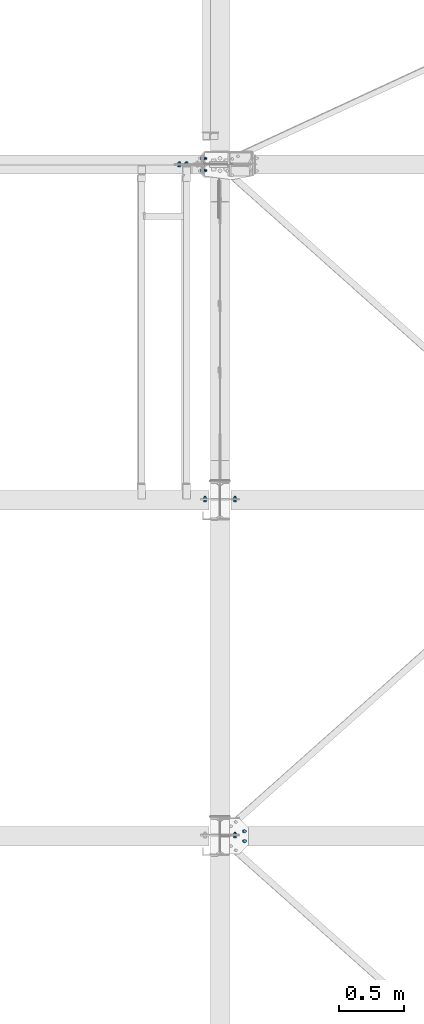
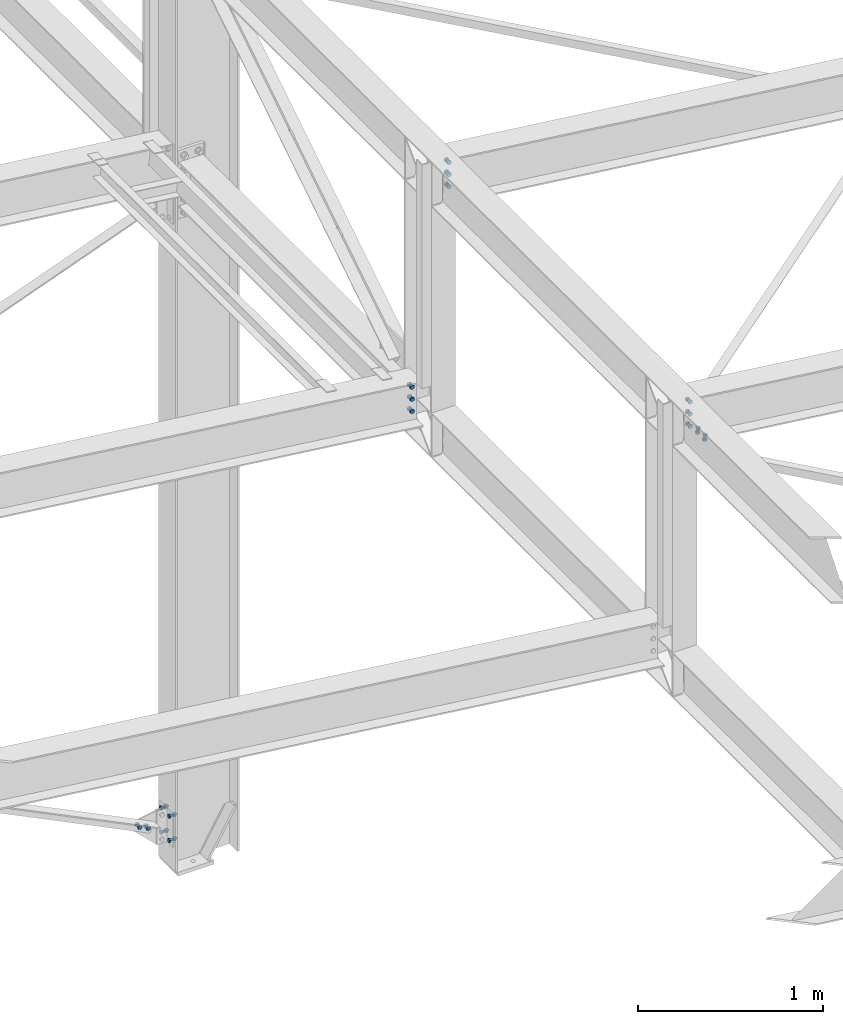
# One storey, part 293 of 3134: 7 mechanical fasteners, 6 elements without a shape of their own.
"""IFC2X3 building model written with IfcOpenShell, lengths in millimetres."""

from ifc_helpers import new_model, si_unit, frame, origin_with_axes, place, context, subcontext, project, spatial, faceted_brep, source, transform, mapped, material, type_object, element, aggregate, save


model = new_model("IFC2X3")

# Units and contexts
model_context = context("Model", 3, precision=1e-05, world=origin_with_axes())
body_context = subcontext(model_context, "Body", "Model", "MODEL_VIEW")
ifc_project = project(units=[si_unit("LENGTHUNIT", "METRE", prefix="MILLI"), si_unit("AREAUNIT", "SQUARE_METRE"), si_unit("VOLUMEUNIT", "CUBIC_METRE"), si_unit("MASSUNIT", "GRAM", prefix="KILO"), si_unit("TIMEUNIT", "SECOND"), si_unit("PLANEANGLEUNIT", "RADIAN"), si_unit("SOLIDANGLEUNIT", "STERADIAN"), si_unit("THERMODYNAMICTEMPERATUREUNIT", "DEGREE_CELSIUS"), si_unit("LUMINOUSINTENSITYUNIT", "LUMEN")], contexts=[model_context])

# Site, building, storey
site_placement = place(None, origin_with_axes())
site = spatial("IfcSite", under=ifc_project, at=site_placement, CompositionType="ELEMENT")
building_placement = place(site_placement, origin_with_axes())
building = spatial("IfcBuilding", under=site, at=building_placement, Name="Undefined", CompositionType="ELEMENT")
storey_placement = place(building_placement, origin_with_axes())
storey = spatial("IfcBuildingStorey", under=building, at=storey_placement, Name="Undefined", CompositionType="ELEMENT", Elevation=0.0)

# Assembly, mechanical fastener
assembly_1_placement = place(storey_placement, origin_with_axes())
assembly_1 = element("IfcElementAssembly", 1, at=assembly_1_placement, inside=storey, Name="300", AssemblyPlace="NOTDEFINED", PredefinedType="RIGID_FRAME")
ifc_material = material(Name="8.8")
mechanical_fastener_type = type_object("IfcMechanicalFastenerType", Name="Bolt assembly")
shared_shape_1 = source(origin_with_axes(), body_context, "Body", "Brep", [
    faceted_brep([(13.856406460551, -19.199990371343, 0.0), (6.92820323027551, -19.199990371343, 12.0), (-6.92820323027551, -19.199990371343, 12.0), (-13.856406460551, -19.199990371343, 1.69692038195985e-15), (-6.92820323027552, -19.199990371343, -12.0), (6.9282032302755, -19.199990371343, -12.0), (6.9282032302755, -9.19999037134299, -12.0), (-6.92820323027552, -9.19999037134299, -12.0), (-13.856406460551, -9.19999037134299, 1.69692038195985e-15), (-6.92820323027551, -9.19999037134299, 12.0), (6.92820323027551, -9.19999037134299, 12.0), (13.856406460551, -9.19999037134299, 0.0), (8.0, -9.19999037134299, 0.0), (6.92820323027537, -9.19999037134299, 4.00000000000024), (3.99999999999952, -9.19999037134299, 6.92820323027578), (-8.29068785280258e-13, -9.19999037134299, 8.0), (-4.00000000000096, -9.19999037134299, 6.92820323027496), (-6.9282032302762, -9.19999037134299, 3.99999999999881), (-8.0, -9.19999037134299, -1.65813757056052e-12), (-6.92820323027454, -9.19999037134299, -4.00000000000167), (-3.99999999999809, -9.19999037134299, -6.92820323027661), (2.47832457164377e-12, -9.19999037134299, -8.0), (4.00000000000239, -9.19999037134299, -6.92820323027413), (6.92820323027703, -9.19999037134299, -3.99999999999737), (6.92820323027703, 25.800009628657, -3.99999999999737), (4.00000000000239, 25.800009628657, -6.92820323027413), (2.47832457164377e-12, 25.800009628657, -8.0), (-3.99999999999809, 25.800009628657, -6.92820323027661), (-6.92820323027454, 25.800009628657, -4.00000000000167), (-8.0, 25.800009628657, -1.65813757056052e-12), (-6.9282032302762, 25.800009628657, 3.99999999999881), (-4.00000000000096, 25.800009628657, 6.92820323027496), (-8.29068785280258e-13, 25.800009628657, 8.0), (3.99999999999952, 25.800009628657, 6.92820323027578), (6.92820323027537, 25.800009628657, 4.00000000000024), (8.0, 25.800009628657, 0.0), (13.856406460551, 8.00000637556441, 0.0), (6.92820323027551, 8.00000637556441, 12.0), (-6.92820323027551, 8.00000637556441, 12.0), (-13.856406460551, 8.00000637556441, 1.69692038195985e-15), (-6.92820323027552, 8.00000637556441, -12.0), (6.9282032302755, 8.00000637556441, -12.0), (6.9282032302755, 21.0000063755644, -12.0), (-6.92820323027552, 21.0000063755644, -12.0), (-13.856406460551, 21.0000063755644, 1.69692038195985e-15), (-6.92820323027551, 21.0000063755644, 12.0), (6.92820323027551, 21.0000063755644, 12.0), (13.856406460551, 21.0000063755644, 0.0)], [[[0, 1, 2, 3, 4, 5]], [[6, 7, 8, 9, 10, 11]], [[0, 11, 10, 1]], [[1, 10, 9, 2]], [[2, 9, 8, 3]], [[3, 8, 7, 4]], [[4, 7, 6, 5]], [[5, 6, 11, 0]], [[12, 13, 14, 15, 16, 17, 18, 19, 20, 21, 22, 23]], [[24, 25, 26, 27, 28, 29, 30, 31, 32, 33, 34, 35]], [[12, 35, 34, 13]], [[13, 34, 33, 14]], [[14, 33, 32, 15]], [[15, 32, 31, 16]], [[16, 31, 30, 17]], [[17, 30, 29, 18]], [[18, 29, 28, 19]], [[19, 28, 27, 20]], [[20, 27, 26, 21]], [[21, 26, 25, 22]], [[22, 25, 24, 23]], [[23, 24, 35, 12]], [[36, 37, 38, 39, 40, 41]], [[42, 43, 44, 45, 46, 47]], [[36, 47, 46, 37]], [[37, 46, 45, 38]], [[38, 45, 44, 39]], [[39, 44, 43, 40]], [[40, 43, 42, 41]], [[41, 42, 47, 36]]]),
    faceted_brep([(9.0, -0.1, 0.0), (7.79422863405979, -0.1, 4.50000000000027), (4.49999999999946, -0.1, 7.79422863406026), (-9.3270238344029e-13, -0.1, 9.0), (-4.50000000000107, -0.1, 7.79422863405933), (-7.79422863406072, -0.1, 4.49999999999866), (-9.0, -0.1, -1.86540476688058e-12), (-7.79422863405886, -0.1, -4.50000000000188), (-4.49999999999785, -0.1, -7.79422863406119), (2.78811514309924e-12, -0.1, -9.0), (4.50000000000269, -0.1, -7.7942286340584), (7.79422863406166, -0.1, -4.49999999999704), (7.79422863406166, 8.00000000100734, -4.49999999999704), (4.50000000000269, 8.00000000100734, -7.7942286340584), (2.78811514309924e-12, 8.00000000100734, -9.0), (-4.49999999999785, 8.00000000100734, -7.79422863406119), (-7.79422863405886, 8.00000000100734, -4.50000000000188), (-9.0, 8.00000000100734, -1.86540476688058e-12), (-7.79422863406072, 8.00000000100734, 4.49999999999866), (-4.50000000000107, 8.00000000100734, 7.79422863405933), (-9.3270238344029e-13, 8.00000000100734, 9.0), (4.49999999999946, 8.00000000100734, 7.79422863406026), (7.79422863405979, 8.00000000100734, 4.50000000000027), (9.0, 8.00000000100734, 0.0), (9.0, -9.09999037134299, 0.0), (7.79422863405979, -9.09999037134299, 4.50000000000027), (4.49999999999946, -9.09999037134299, 7.79422863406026), (-9.3270238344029e-13, -9.09999037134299, 9.0), (-4.50000000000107, -9.09999037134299, 7.79422863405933), (-7.79422863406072, -9.09999037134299, 4.49999999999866), (-9.0, -9.09999037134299, -1.86540476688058e-12), (-7.79422863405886, -9.09999037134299, -4.50000000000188), (-4.49999999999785, -9.09999037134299, -7.79422863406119), (2.78811514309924e-12, -9.09999037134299, -9.0), (4.50000000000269, -9.09999037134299, -7.7942286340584), (7.79422863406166, -9.09999037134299, -4.49999999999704), (7.79422863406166, 0.100000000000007, -4.49999999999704), (4.50000000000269, 0.100000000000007, -7.7942286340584), (2.78811514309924e-12, 0.100000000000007, -9.0), (-4.49999999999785, 0.100000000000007, -7.79422863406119), (-7.79422863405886, 0.100000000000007, -4.50000000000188), (-9.0, 0.100000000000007, -1.86540476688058e-12), (-7.79422863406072, 0.100000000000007, 4.49999999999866), (-4.50000000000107, 0.100000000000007, 7.79422863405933), (-9.3270238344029e-13, 0.100000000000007, 9.0), (4.49999999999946, 0.100000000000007, 7.79422863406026), (7.79422863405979, 0.100000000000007, 4.50000000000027), (9.0, 0.100000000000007, 0.0)], [[[0, 1, 2, 3, 4, 5, 6, 7, 8, 9, 10, 11]], [[12, 13, 14, 15, 16, 17, 18, 19, 20, 21, 22, 23]], [[0, 23, 22, 1]], [[1, 22, 21, 2]], [[2, 21, 20, 3]], [[3, 20, 19, 4]], [[4, 19, 18, 5]], [[5, 18, 17, 6]], [[6, 17, 16, 7]], [[7, 16, 15, 8]], [[8, 15, 14, 9]], [[9, 14, 13, 10]], [[10, 13, 12, 11]], [[11, 12, 23, 0]], [[24, 25, 26, 27, 28, 29, 30, 31, 32, 33, 34, 35]], [[36, 37, 38, 39, 40, 41, 42, 43, 44, 45, 46, 47]], [[24, 47, 46, 25]], [[25, 46, 45, 26]], [[26, 45, 44, 27]], [[27, 44, 43, 28]], [[28, 43, 42, 29]], [[29, 42, 41, 30]], [[30, 41, 40, 31]], [[31, 40, 39, 32]], [[32, 39, 38, 33]], [[33, 38, 37, 34]], [[34, 37, 36, 35]], [[35, 36, 47, 24]]]),
])
mechanical_fastener_1_placement = place(assembly_1_placement, frame((56064.2248161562, 55887.9995130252, 5496.68063428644), z_axis=(0.992623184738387, 1.63108538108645e-05, -0.12124031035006), x_axis=(1.62000016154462e-05, -0.999999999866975, -1.90000018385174e-06)))
mechanical_fastener_1 = element("IfcMechanicalFastener", 2, at=mechanical_fastener_1_placement, type_object=mechanical_fastener_type, material=ifc_material, Name="Bolt assembly", NominalDiameter=16.0, NominalLength=35.0, context=body_context, shape_type="MappedRepresentation", body=[
    mapped(shared_shape_1, transform((0.0, 0.0, 0.0))),
    mapped(shared_shape_1, transform((76.0, 0.0, 0.0))),
])

assembly_2_placement = place(storey_placement, origin_with_axes())
assembly_2 = element("IfcElementAssembly", 3, at=assembly_2_placement, inside=storey, Name="300", AssemblyPlace="NOTDEFINED", PredefinedType="RIGID_FRAME")
shared_shape_2 = source(origin_with_axes(), body_context, "Body", "Brep", [
    faceted_brep([(13.856406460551, -13.0499999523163, 0.0), (6.92820323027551, -13.0499999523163, 12.0), (-6.92820323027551, -13.0499999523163, 12.0), (-13.856406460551, -13.0499999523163, 1.69692038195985e-15), (-6.92820323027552, -13.0499999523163, -12.0), (6.9282032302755, -13.0499999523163, -12.0), (6.9282032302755, -3.04999995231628, -12.0), (-6.92820323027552, -3.04999995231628, -12.0), (-13.856406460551, -3.04999995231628, 1.69692038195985e-15), (-6.92820323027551, -3.04999995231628, 12.0), (6.92820323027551, -3.04999995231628, 12.0), (13.856406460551, -3.04999995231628, 0.0), (8.0, -3.04999995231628, 0.0), (6.92820323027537, -3.04999995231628, 4.00000000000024), (3.99999999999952, -3.04999995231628, 6.92820323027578), (-8.29068785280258e-13, -3.04999995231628, 8.0), (-4.00000000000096, -3.04999995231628, 6.92820323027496), (-6.9282032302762, -3.04999995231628, 3.99999999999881), (-8.0, -3.04999995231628, -1.65813757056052e-12), (-6.92820323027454, -3.04999995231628, -4.00000000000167), (-3.99999999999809, -3.04999995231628, -6.92820323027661), (2.47832457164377e-12, -3.04999995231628, -8.0), (4.00000000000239, -3.04999995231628, -6.92820323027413), (6.92820323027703, -3.04999995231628, -3.99999999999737), (6.92820323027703, 31.9500000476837, -3.99999999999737), (4.00000000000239, 31.9500000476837, -6.92820323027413), (2.47832457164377e-12, 31.9500000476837, -8.0), (-3.99999999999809, 31.9500000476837, -6.92820323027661), (-6.92820323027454, 31.9500000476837, -4.00000000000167), (-8.0, 31.9500000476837, -1.65813757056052e-12), (-6.9282032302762, 31.9500000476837, 3.99999999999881), (-4.00000000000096, 31.9500000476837, 6.92820323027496), (-8.29068785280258e-13, 31.9500000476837, 8.0), (3.99999999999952, 31.9500000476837, 6.92820323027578), (6.92820323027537, 31.9500000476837, 4.00000000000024), (8.0, 31.9500000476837, 0.0), (13.856406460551, 13.0500000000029, 0.0), (6.92820323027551, 13.0500000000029, 12.0), (-6.92820323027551, 13.0500000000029, 12.0), (-13.856406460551, 13.0500000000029, 1.69692038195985e-15), (-6.92820323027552, 13.0500000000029, -12.0), (6.9282032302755, 13.0500000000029, -12.0), (6.9282032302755, 26.0500000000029, -12.0), (-6.92820323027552, 26.0500000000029, -12.0), (-13.856406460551, 26.0500000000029, 1.69692038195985e-15), (-6.92820323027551, 26.0500000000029, 12.0), (6.92820323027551, 26.0500000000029, 12.0), (13.856406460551, 26.0500000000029, 0.0)], [[[0, 1, 2, 3, 4, 5]], [[6, 7, 8, 9, 10, 11]], [[0, 11, 10, 1]], [[1, 10, 9, 2]], [[2, 9, 8, 3]], [[3, 8, 7, 4]], [[4, 7, 6, 5]], [[5, 6, 11, 0]], [[12, 13, 14, 15, 16, 17, 18, 19, 20, 21, 22, 23]], [[24, 25, 26, 27, 28, 29, 30, 31, 32, 33, 34, 35]], [[12, 35, 34, 13]], [[13, 34, 33, 14]], [[14, 33, 32, 15]], [[15, 32, 31, 16]], [[16, 31, 30, 17]], [[17, 30, 29, 18]], [[18, 29, 28, 19]], [[19, 28, 27, 20]], [[20, 27, 26, 21]], [[21, 26, 25, 22]], [[22, 25, 24, 23]], [[23, 24, 35, 12]], [[36, 37, 38, 39, 40, 41]], [[42, 43, 44, 45, 46, 47]], [[36, 47, 46, 37]], [[37, 46, 45, 38]], [[38, 45, 44, 39]], [[39, 44, 43, 40]], [[40, 43, 42, 41]], [[41, 42, 47, 36]]]),
    faceted_brep([(9.0, 2.95000000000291, 0.0), (7.79422863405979, 2.95000000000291, 4.50000000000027), (4.49999999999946, 2.95000000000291, 7.79422863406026), (-9.3270238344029e-13, 2.95000000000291, 9.0), (-4.50000000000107, 2.95000000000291, 7.79422863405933), (-7.79422863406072, 2.95000000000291, 4.49999999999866), (-9.0, 2.95000000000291, -1.86540476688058e-12), (-7.79422863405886, 2.95000000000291, -4.50000000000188), (-4.49999999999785, 2.95000000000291, -7.79422863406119), (2.78811514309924e-12, 2.95000000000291, -9.0), (4.50000000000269, 2.95000000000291, -7.7942286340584), (7.79422863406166, 2.95000000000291, -4.49999999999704), (7.79422863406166, 13.0500000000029, -4.49999999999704), (4.50000000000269, 13.0500000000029, -7.7942286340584), (2.78811514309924e-12, 13.0500000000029, -9.0), (-4.49999999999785, 13.0500000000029, -7.79422863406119), (-7.79422863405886, 13.0500000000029, -4.50000000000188), (-9.0, 13.0500000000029, -1.86540476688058e-12), (-7.79422863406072, 13.0500000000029, 4.49999999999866), (-4.50000000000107, 13.0500000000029, 7.79422863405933), (-9.3270238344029e-13, 13.0500000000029, 9.0), (4.49999999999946, 13.0500000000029, 7.79422863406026), (7.79422863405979, 13.0500000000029, 4.50000000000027), (9.0, 13.0500000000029, 0.0), (9.0, -2.94999995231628, 0.0), (7.79422863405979, -2.94999995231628, 4.50000000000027), (4.49999999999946, -2.94999995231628, 7.79422863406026), (-9.3270238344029e-13, -2.94999995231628, 9.0), (-4.50000000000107, -2.94999995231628, 7.79422863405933), (-7.79422863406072, -2.94999995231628, 4.49999999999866), (-9.0, -2.94999995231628, -1.86540476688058e-12), (-7.79422863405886, -2.94999995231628, -4.50000000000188), (-4.49999999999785, -2.94999995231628, -7.79422863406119), (2.78811514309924e-12, -2.94999995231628, -9.0), (4.50000000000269, -2.94999995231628, -7.7942286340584), (7.79422863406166, -2.94999995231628, -4.49999999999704), (7.79422863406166, 3.14999995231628, -4.49999999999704), (4.50000000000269, 3.14999995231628, -7.7942286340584), (2.78811514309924e-12, 3.14999995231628, -9.0), (-4.49999999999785, 3.14999995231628, -7.79422863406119), (-7.79422863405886, 3.14999995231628, -4.50000000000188), (-9.0, 3.14999995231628, -1.86540476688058e-12), (-7.79422863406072, 3.14999995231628, 4.49999999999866), (-4.50000000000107, 3.14999995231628, 7.79422863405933), (-9.3270238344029e-13, 3.14999995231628, 9.0), (4.49999999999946, 3.14999995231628, 7.79422863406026), (7.79422863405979, 3.14999995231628, 4.50000000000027), (9.0, 3.14999995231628, 0.0)], [[[0, 1, 2, 3, 4, 5, 6, 7, 8, 9, 10, 11]], [[12, 13, 14, 15, 16, 17, 18, 19, 20, 21, 22, 23]], [[0, 23, 22, 1]], [[1, 22, 21, 2]], [[2, 21, 20, 3]], [[3, 20, 19, 4]], [[4, 19, 18, 5]], [[5, 18, 17, 6]], [[6, 17, 16, 7]], [[7, 16, 15, 8]], [[8, 15, 14, 9]], [[9, 14, 13, 10]], [[10, 13, 12, 11]], [[11, 12, 23, 0]], [[24, 25, 26, 27, 28, 29, 30, 31, 32, 33, 34, 35]], [[36, 37, 38, 39, 40, 41, 42, 43, 44, 45, 46, 47]], [[24, 47, 46, 25]], [[25, 46, 45, 26]], [[26, 45, 44, 27]], [[27, 44, 43, 28]], [[28, 43, 42, 29]], [[29, 42, 41, 30]], [[30, 41, 40, 31]], [[31, 40, 39, 32]], [[32, 39, 38, 33]], [[33, 38, 37, 34]], [[34, 37, 36, 35]], [[35, 36, 47, 24]]]),
])
mechanical_fastener_2_placement = place(assembly_2_placement, frame((55760.0, 58450.0, 4337.44269270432), z_axis=(1.0, 0.0, 0.0), x_axis=(0.0, 0.0, -1.0)))
mechanical_fastener_2 = element("IfcMechanicalFastener", 4, at=mechanical_fastener_2_placement, type_object=mechanical_fastener_type, material=ifc_material, Name="Bolt assembly", NominalDiameter=16.0, NominalLength=35.0, context=body_context, shape_type="MappedRepresentation", body=[
    mapped(shared_shape_2, transform((0.0, 0.0, 0.0))),
    mapped(shared_shape_2, transform((80.0, 0.0, 0.0))),
    mapped(shared_shape_2, transform((160.0, 0.0, 0.0))),
])
aggregate(assembly_2, [mechanical_fastener_2])

# Mechanical fastener
mechanical_fastener_3_placement = place(assembly_1_placement, frame((55990.0, 55850.0, 5735.35014950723), z_axis=(1.0, 0.0, 0.0), x_axis=(0.0, 0.0, -1.0)))
mechanical_fastener_3 = element("IfcMechanicalFastener", 5, at=mechanical_fastener_3_placement, type_object=mechanical_fastener_type, material=ifc_material, Name="Bolt assembly", NominalDiameter=16.0, NominalLength=35.0, context=body_context, shape_type="MappedRepresentation", body=[
    mapped(shared_shape_2, transform((0.0, 0.0, 0.0))),
    mapped(shared_shape_2, transform((80.0, 0.0, 0.0))),
    mapped(shared_shape_2, transform((160.0, 0.0, 0.0))),
])

aggregate(assembly_1, [mechanical_fastener_1, mechanical_fastener_3])

# Assembly, mechanical fastener
assembly_3_placement = place(storey_placement, origin_with_axes())
assembly_3 = element("IfcElementAssembly", 6, at=assembly_3_placement, inside=storey, Name="300", AssemblyPlace="NOTDEFINED", PredefinedType="RIGID_FRAME")
mechanical_fastener_4_placement = place(assembly_3_placement, frame((55990.0, 58450.0, 5735.35014950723), z_axis=(1.0, 0.0, 0.0), x_axis=(0.0, 0.0, -1.0)))
mechanical_fastener_4 = element("IfcMechanicalFastener", 7, at=mechanical_fastener_4_placement, type_object=mechanical_fastener_type, material=ifc_material, Name="Bolt assembly", NominalDiameter=16.0, NominalLength=35.0, context=body_context, shape_type="MappedRepresentation", body=[
    mapped(shared_shape_2, transform((0.0, 0.0, 0.0))),
    mapped(shared_shape_2, transform((80.0, 0.0, 0.0))),
    mapped(shared_shape_2, transform((160.0, 0.0, 0.0))),
])
aggregate(assembly_3, [mechanical_fastener_4])

assembly_4_placement = place(storey_placement, origin_with_axes())
assembly_4 = element("IfcElementAssembly", 8, at=assembly_4_placement, inside=storey, AssemblyPlace="NOTDEFINED", PredefinedType="RIGID_FRAME")
shared_shape_3 = source(origin_with_axes(), body_context, "Body", "Brep", [
    faceted_brep([(13.856406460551, -21.0000017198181, 0.0), (6.92820323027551, -21.0000017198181, 12.0), (-6.92820323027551, -21.0000017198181, 12.0), (-13.856406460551, -21.0000017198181, 1.69692038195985e-15), (-6.92820323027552, -21.0000017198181, -12.0), (6.9282032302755, -21.0000017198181, -12.0), (6.9282032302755, -11.0000017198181, -12.0), (-6.92820323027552, -11.0000017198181, -12.0), (-13.856406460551, -11.0000017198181, 1.69692038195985e-15), (-6.92820323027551, -11.0000017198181, 12.0), (6.92820323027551, -11.0000017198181, 12.0), (13.856406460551, -11.0000017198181, 0.0), (8.0, -11.0000017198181, 0.0), (6.92820323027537, -11.0000017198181, 4.00000000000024), (3.99999999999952, -11.0000017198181, 6.92820323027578), (-8.29068785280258e-13, -11.0000017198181, 8.0), (-4.00000000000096, -11.0000017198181, 6.92820323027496), (-6.9282032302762, -11.0000017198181, 3.99999999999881), (-8.0, -11.0000017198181, -1.65813757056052e-12), (-6.92820323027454, -11.0000017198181, -4.00000000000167), (-3.99999999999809, -11.0000017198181, -6.92820323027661), (2.47832457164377e-12, -11.0000017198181, -8.0), (4.00000000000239, -11.0000017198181, -6.92820323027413), (6.92820323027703, -11.0000017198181, -3.99999999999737), (6.92820323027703, 23.9999999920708, -3.99999999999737), (4.00000000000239, 23.9999999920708, -6.92820323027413), (2.47832457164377e-12, 23.9999999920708, -8.0), (-3.99999999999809, 23.9999999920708, -6.92820323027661), (-6.92820323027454, 23.9999999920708, -4.00000000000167), (-8.0, 23.9999999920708, -1.65813757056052e-12), (-6.9282032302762, 23.9999999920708, 3.99999999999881), (-4.00000000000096, 23.9999999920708, 6.92820323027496), (-8.29068785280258e-13, 23.9999999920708, 8.0), (3.99999999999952, 23.9999999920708, 6.92820323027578), (6.92820323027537, 23.9999999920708, 4.00000000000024), (8.0, 23.9999999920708, 0.0), (13.856406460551, 3.99999999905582, 0.0), (6.92820323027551, 3.99999999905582, 12.0), (-6.92820323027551, 3.99999999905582, 12.0), (-13.856406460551, 3.99999999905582, 1.69692038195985e-15), (-6.92820323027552, 3.99999999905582, -12.0), (6.9282032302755, 3.99999999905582, -12.0), (6.9282032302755, 16.9999999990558, -12.0), (-6.92820323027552, 16.9999999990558, -12.0), (-13.856406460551, 16.9999999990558, 1.69692038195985e-15), (-6.92820323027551, 16.9999999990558, 12.0), (6.92820323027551, 16.9999999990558, 12.0), (13.856406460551, 16.9999999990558, 0.0)], [[[0, 1, 2, 3, 4, 5]], [[6, 7, 8, 9, 10, 11]], [[0, 11, 10, 1]], [[1, 10, 9, 2]], [[2, 9, 8, 3]], [[3, 8, 7, 4]], [[4, 7, 6, 5]], [[5, 6, 11, 0]], [[12, 13, 14, 15, 16, 17, 18, 19, 20, 21, 22, 23]], [[24, 25, 26, 27, 28, 29, 30, 31, 32, 33, 34, 35]], [[12, 35, 34, 13]], [[13, 34, 33, 14]], [[14, 33, 32, 15]], [[15, 32, 31, 16]], [[16, 31, 30, 17]], [[17, 30, 29, 18]], [[18, 29, 28, 19]], [[19, 28, 27, 20]], [[20, 27, 26, 21]], [[21, 26, 25, 22]], [[22, 25, 24, 23]], [[23, 24, 35, 12]], [[36, 37, 38, 39, 40, 41]], [[42, 43, 44, 45, 46, 47]], [[36, 47, 46, 37]], [[37, 46, 45, 38]], [[38, 45, 44, 39]], [[39, 44, 43, 40]], [[40, 43, 42, 41]], [[41, 42, 47, 36]]]),
    faceted_brep([(9.0, -4.10000000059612, 0.0), (7.79422863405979, -4.10000000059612, 4.50000000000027), (4.49999999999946, -4.10000000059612, 7.79422863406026), (-9.3270238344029e-13, -4.10000000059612, 9.0), (-4.50000000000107, -4.10000000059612, 7.79422863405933), (-7.79422863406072, -4.10000000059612, 4.49999999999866), (-9.0, -4.10000000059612, -1.86540476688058e-12), (-7.79422863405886, -4.10000000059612, -4.50000000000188), (-4.49999999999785, -4.10000000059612, -7.79422863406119), (2.78811514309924e-12, -4.10000000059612, -9.0), (4.50000000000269, -4.10000000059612, -7.7942286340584), (7.79422863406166, -4.10000000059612, -4.49999999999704), (7.79422863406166, 4.00000375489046, -4.49999999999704), (4.50000000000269, 4.00000375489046, -7.7942286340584), (2.78811514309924e-12, 4.00000375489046, -9.0), (-4.49999999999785, 4.00000375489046, -7.79422863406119), (-7.79422863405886, 4.00000375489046, -4.50000000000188), (-9.0, 4.00000375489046, -1.86540476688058e-12), (-7.79422863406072, 4.00000375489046, 4.49999999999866), (-4.50000000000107, 4.00000375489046, 7.79422863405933), (-9.3270238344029e-13, 4.00000375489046, 9.0), (4.49999999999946, 4.00000375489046, 7.79422863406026), (7.79422863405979, 4.00000375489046, 4.50000000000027), (9.0, 4.00000375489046, 0.0), (9.0, -10.9000017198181, 0.0), (7.79422863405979, -10.9000017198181, 4.50000000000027), (4.49999999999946, -10.9000017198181, 7.79422863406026), (-9.3270238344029e-13, -10.9000017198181, 9.0), (-4.50000000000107, -10.9000017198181, 7.79422863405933), (-7.79422863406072, -10.9000017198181, 4.49999999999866), (-9.0, -10.9000017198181, -1.86540476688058e-12), (-7.79422863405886, -10.9000017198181, -4.50000000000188), (-4.49999999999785, -10.9000017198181, -7.79422863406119), (2.78811514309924e-12, -10.9000017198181, -9.0), (4.50000000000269, -10.9000017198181, -7.7942286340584), (7.79422863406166, -10.9000017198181, -4.49999999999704), (7.79422863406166, -3.9, -4.49999999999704), (4.50000000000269, -3.9, -7.7942286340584), (2.78811514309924e-12, -3.9, -9.0), (-4.49999999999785, -3.9, -7.79422863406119), (-7.79422863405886, -3.9, -4.50000000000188), (-9.0, -3.9, -1.86540476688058e-12), (-7.79422863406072, -3.9, 4.49999999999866), (-4.50000000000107, -3.9, 7.79422863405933), (-9.3270238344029e-13, -3.9, 9.0), (4.49999999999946, -3.9, 7.79422863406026), (7.79422863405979, -3.9, 4.50000000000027), (9.0, -3.9, 0.0)], [[[0, 1, 2, 3, 4, 5, 6, 7, 8, 9, 10, 11]], [[12, 13, 14, 15, 16, 17, 18, 19, 20, 21, 22, 23]], [[0, 23, 22, 1]], [[1, 22, 21, 2]], [[2, 21, 20, 3]], [[3, 20, 19, 4]], [[4, 19, 18, 5]], [[5, 18, 17, 6]], [[6, 17, 16, 7]], [[7, 16, 15, 8]], [[8, 15, 14, 9]], [[9, 14, 13, 10]], [[10, 13, 12, 11]], [[11, 12, 23, 0]], [[24, 25, 26, 27, 28, 29, 30, 31, 32, 33, 34, 35]], [[36, 37, 38, 39, 40, 41, 42, 43, 44, 45, 46, 47]], [[24, 47, 46, 25]], [[25, 46, 45, 26]], [[26, 45, 44, 27]], [[27, 44, 43, 28]], [[28, 43, 42, 29]], [[29, 42, 41, 30]], [[30, 41, 40, 31]], [[31, 40, 39, 32]], [[32, 39, 38, 33]], [[33, 38, 37, 34]], [[34, 37, 36, 35]], [[35, 36, 47, 24]]]),
])
mechanical_fastener_5_placement = place(assembly_4_placement, frame((55560.4935776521, 61050.0, -61.8091525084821), z_axis=(0.440953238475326, 0.0, 0.897530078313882), x_axis=(0.897530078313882, 0.0, -0.440953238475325)))
mechanical_fastener_5 = element("IfcMechanicalFastener", 9, at=mechanical_fastener_5_placement, type_object=mechanical_fastener_type, material=ifc_material, Name="Bolt assembly", NominalDiameter=16.0, NominalLength=35.0, context=body_context, shape_type="MappedRepresentation", body=[
    mapped(shared_shape_3, transform((0.0, 0.0, 0.0))),
    mapped(shared_shape_3, transform((59.9999999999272, 0.0, 5.40239852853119e-10))),
])
aggregate(assembly_4, [mechanical_fastener_5])

assembly_5_placement = place(storey_placement, origin_with_axes())
assembly_5 = element("IfcElementAssembly", 10, at=assembly_5_placement, inside=storey, AssemblyPlace="NOTDEFINED", PredefinedType="RIGID_FRAME")
shared_shape_4 = source(origin_with_axes(), body_context, "Body", "Brep", [
    faceted_brep([(13.856406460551, -16.999999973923, 0.0), (6.92820323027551, -16.999999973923, 12.0), (-6.92820323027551, -16.999999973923, 12.0), (-13.856406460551, -16.999999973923, 1.69692038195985e-15), (-6.92820323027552, -16.999999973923, -12.0), (6.9282032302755, -16.999999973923, -12.0), (6.9282032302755, -7.0, -12.0), (-6.92820323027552, -7.0, -12.0), (-13.856406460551, -7.0, 1.69692038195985e-15), (-6.92820323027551, -7.0, 12.0), (6.92820323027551, -7.0, 12.0), (13.856406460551, -7.0, 0.0), (8.0, -7.0, 0.0), (6.92820323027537, -7.0, 4.00000000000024), (3.99999999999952, -7.0, 6.92820323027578), (-8.29068785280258e-13, -7.0, 8.0), (-4.00000000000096, -7.0, 6.92820323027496), (-6.9282032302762, -7.0, 3.99999999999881), (-8.0, -7.0, -1.65813757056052e-12), (-6.92820323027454, -7.0, -4.00000000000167), (-3.99999999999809, -7.0, -6.92820323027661), (2.47832457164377e-12, -7.0, -8.0), (4.00000000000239, -7.0, -6.92820323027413), (6.92820323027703, -7.0, -3.99999999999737), (6.92820323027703, 33.0, -3.99999999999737), (4.00000000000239, 33.0, -6.92820323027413), (2.47832457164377e-12, 33.0, -8.0), (-3.99999999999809, 33.0, -6.92820323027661), (-6.92820323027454, 33.0, -4.00000000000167), (-8.0, 33.0, -1.65813757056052e-12), (-6.9282032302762, 33.0, 3.99999999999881), (-4.00000000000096, 33.0, 6.92820323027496), (-8.29068785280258e-13, 33.0, 8.0), (3.99999999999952, 33.0, 6.92820323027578), (6.92820323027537, 33.0, 4.00000000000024), (8.0, 33.0, 0.0), (13.856406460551, 13.5000000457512, 0.0), (6.92820323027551, 13.5000000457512, 12.0), (-6.92820323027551, 13.5000000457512, 12.0), (-13.856406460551, 13.5000000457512, 1.69692038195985e-15), (-6.92820323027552, 13.5000000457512, -12.0), (6.9282032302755, 13.5000000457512, -12.0), (6.9282032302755, 26.5000000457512, -12.0), (-6.92820323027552, 26.5000000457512, -12.0), (-13.856406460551, 26.5000000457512, 1.69692038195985e-15), (-6.92820323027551, 26.5000000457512, 12.0), (6.92820323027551, 26.5000000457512, 12.0), (13.856406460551, 26.5000000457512, 0.0)], [[[0, 1, 2, 3, 4, 5]], [[6, 7, 8, 9, 10, 11]], [[0, 11, 10, 1]], [[1, 10, 9, 2]], [[2, 9, 8, 3]], [[3, 8, 7, 4]], [[4, 7, 6, 5]], [[5, 6, 11, 0]], [[12, 13, 14, 15, 16, 17, 18, 19, 20, 21, 22, 23]], [[24, 25, 26, 27, 28, 29, 30, 31, 32, 33, 34, 35]], [[12, 35, 34, 13]], [[13, 34, 33, 14]], [[14, 33, 32, 15]], [[15, 32, 31, 16]], [[16, 31, 30, 17]], [[17, 30, 29, 18]], [[18, 29, 28, 19]], [[19, 28, 27, 20]], [[20, 27, 26, 21]], [[21, 26, 25, 22]], [[22, 25, 24, 23]], [[23, 24, 35, 12]], [[36, 37, 38, 39, 40, 41]], [[42, 43, 44, 45, 46, 47]], [[36, 47, 46, 37]], [[37, 46, 45, 38]], [[38, 45, 44, 39]], [[39, 44, 43, 40]], [[40, 43, 42, 41]], [[41, 42, 47, 36]]]),
    faceted_brep([(9.0, -0.1, 0.0), (7.79422863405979, -0.1, 4.50000000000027), (4.49999999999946, -0.1, 7.79422863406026), (-9.3270238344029e-13, -0.1, 9.0), (-4.50000000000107, -0.1, 7.79422863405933), (-7.79422863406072, -0.1, 4.49999999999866), (-9.0, -0.1, -1.86540476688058e-12), (-7.79422863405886, -0.1, -4.50000000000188), (-4.49999999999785, -0.1, -7.79422863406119), (2.78811514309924e-12, -0.1, -9.0), (4.50000000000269, -0.1, -7.7942286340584), (7.79422863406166, -0.1, -4.49999999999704), (7.79422863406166, 13.5000000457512, -4.49999999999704), (4.50000000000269, 13.5000000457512, -7.7942286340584), (2.78811514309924e-12, 13.5000000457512, -9.0), (-4.49999999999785, 13.5000000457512, -7.79422863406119), (-7.79422863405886, 13.5000000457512, -4.50000000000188), (-9.0, 13.5000000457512, -1.86540476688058e-12), (-7.79422863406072, 13.5000000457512, 4.49999999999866), (-4.50000000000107, 13.5000000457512, 7.79422863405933), (-9.3270238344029e-13, 13.5000000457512, 9.0), (4.49999999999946, 13.5000000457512, 7.79422863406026), (7.79422863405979, 13.5000000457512, 4.50000000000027), (9.0, 13.5000000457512, 0.0), (9.0, -6.89999997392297, 0.0), (7.79422863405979, -6.89999997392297, 4.50000000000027), (4.49999999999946, -6.89999997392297, 7.79422863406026), (-9.3270238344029e-13, -6.89999997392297, 9.0), (-4.50000000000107, -6.89999997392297, 7.79422863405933), (-7.79422863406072, -6.89999997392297, 4.49999999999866), (-9.0, -6.89999997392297, -1.86540476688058e-12), (-7.79422863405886, -6.89999997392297, -4.50000000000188), (-4.49999999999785, -6.89999997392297, -7.79422863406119), (2.78811514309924e-12, -6.89999997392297, -9.0), (4.50000000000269, -6.89999997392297, -7.7942286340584), (7.79422863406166, -6.89999997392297, -4.49999999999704), (7.79422863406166, 0.100000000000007, -4.49999999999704), (4.50000000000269, 0.100000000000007, -7.7942286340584), (2.78811514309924e-12, 0.100000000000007, -9.0), (-4.49999999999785, 0.100000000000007, -7.79422863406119), (-7.79422863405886, 0.100000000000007, -4.50000000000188), (-9.0, 0.100000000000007, -1.86540476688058e-12), (-7.79422863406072, 0.100000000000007, 4.49999999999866), (-4.50000000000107, 0.100000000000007, 7.79422863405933), (-9.3270238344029e-13, 0.100000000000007, 9.0), (4.49999999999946, 0.100000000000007, 7.79422863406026), (7.79422863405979, 0.100000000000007, 4.50000000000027), (9.0, 0.100000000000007, 0.0)], [[[0, 1, 2, 3, 4, 5, 6, 7, 8, 9, 10, 11]], [[12, 13, 14, 15, 16, 17, 18, 19, 20, 21, 22, 23]], [[0, 23, 22, 1]], [[1, 22, 21, 2]], [[2, 21, 20, 3]], [[3, 20, 19, 4]], [[4, 19, 18, 5]], [[5, 18, 17, 6]], [[6, 17, 16, 7]], [[7, 16, 15, 8]], [[8, 15, 14, 9]], [[9, 14, 13, 10]], [[10, 13, 12, 11]], [[11, 12, 23, 0]], [[24, 25, 26, 27, 28, 29, 30, 31, 32, 33, 34, 35]], [[36, 37, 38, 39, 40, 41, 42, 43, 44, 45, 46, 47]], [[24, 47, 46, 25]], [[25, 46, 45, 26]], [[26, 45, 44, 27]], [[27, 44, 43, 28]], [[28, 43, 42, 29]], [[29, 42, 41, 30]], [[30, 41, 40, 31]], [[31, 40, 39, 32]], [[32, 39, 38, 33]], [[33, 38, 37, 34]], [[34, 37, 36, 35]], [[35, 36, 47, 24]]]),
])
mechanical_fastener_6_placement = place(assembly_5_placement, frame((55739.9999999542, 61050.0, -29.9980790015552), z_axis=(0.0, -1.0, 0.0), x_axis=(0.0, 0.0, -1.0)))
mechanical_fastener_6 = element("IfcMechanicalFastener", 11, at=mechanical_fastener_6_placement, type_object=mechanical_fastener_type, material=ifc_material, Name="Bolt assembly", NominalDiameter=16.0, NominalLength=40.0, context=body_context, shape_type="MappedRepresentation", body=[
    mapped(shared_shape_4, transform((0.0, 0.0, -45.0))),
    mapped(shared_shape_4, transform((160.0, 0.0, -45.0))),
])
aggregate(assembly_5, [mechanical_fastener_6])

assembly_6_placement = place(storey_placement, origin_with_axes())
assembly_6 = element("IfcElementAssembly", 12, at=assembly_6_placement, inside=storey, AssemblyPlace="NOTDEFINED", PredefinedType="RIGID_FRAME")
mechanical_fastener_7_placement = place(assembly_6_placement, frame((55739.9999999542, 61050.0, -29.9980790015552), z_axis=(0.0, -1.0, 0.0), x_axis=(0.0, 0.0, -1.0)))
mechanical_fastener_7 = element("IfcMechanicalFastener", 13, at=mechanical_fastener_7_placement, type_object=mechanical_fastener_type, material=ifc_material, Name="Bolt assembly", NominalDiameter=16.0, NominalLength=40.0, context=body_context, shape_type="MappedRepresentation", body=[
    mapped(shared_shape_4, transform((0.0, 0.0, 45.0))),
    mapped(shared_shape_4, transform((160.0, 0.0, 45.0))),
])
aggregate(assembly_6, [mechanical_fastener_7])

save(model, "model.ifc")
